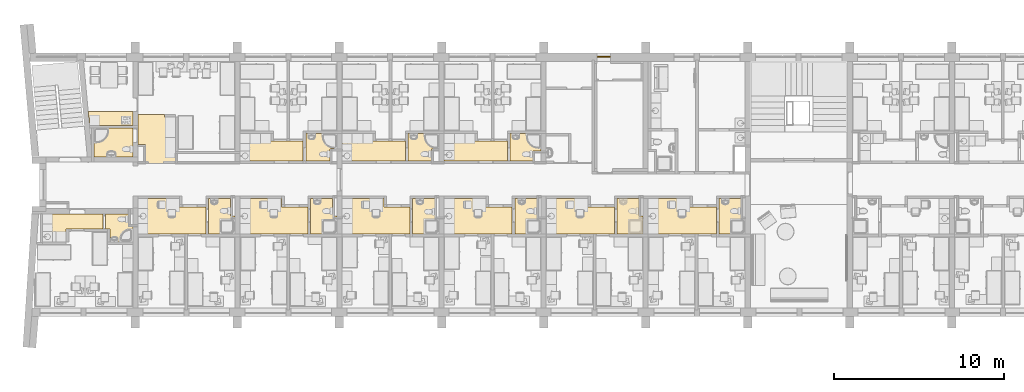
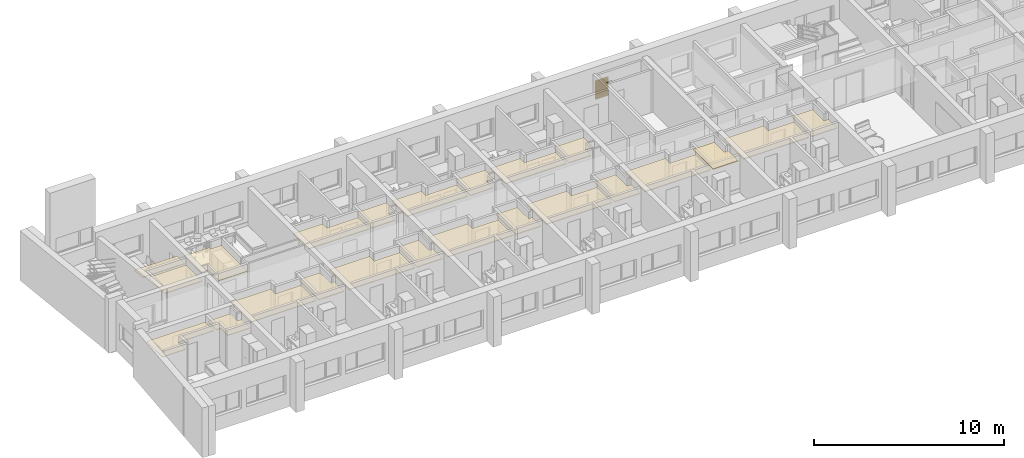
# One storey, part 27 of 165: 25 coverings.
"""IFC2X3 building model written with IfcOpenShell, lengths in millimetres."""

import ifcopenshell
import ifcopenshell.guid

model = None  # the IFC model being written
_history = None  # IfcOwnerHistory: only IFC2X3 demands one
_inside = {}  # id of a spatial element -> (the spatial element, [elements in it])
_under = {}  # id of a project, library or spatial element -> (it, [spatial elements below it])
_declared = {}  # id of a project -> (the project, [libraries it declares])
_typed = {}  # id of a type object -> (the type object, [elements of that type])
_made_of = {}  # id of a material, layer set ... -> (it, [elements and type objects made of it])


def new_model(schema):
    """Start an empty IFC model of exactly this schema.

    Asked for "IFC4X3", IfcOpenShell would pick the latest addendum, in which some entities
    have other attributes; the version numbers below select the first issue.
    IFC2X3 requires an IfcOwnerHistory on every rooted entity: one is made here for all.
    """
    global model, _history
    if schema == "IFC4X3":
        model = ifcopenshell.file(schema_version=(4, 3, 0, 0))
    else:
        model = ifcopenshell.file(schema=schema)
    _inside.clear()
    _under.clear()
    _declared.clear()
    _typed.clear()
    _made_of.clear()
    _history = None
    if model.schema == "IFC2X3":
        org = make("IfcOrganization", Name="unknown")
        user = make(
            "IfcPersonAndOrganization",
            ThePerson=make("IfcPerson", FamilyName="unknown"),
            TheOrganization=org,
        )
        app = make(
            "IfcApplication",
            ApplicationDeveloper=org,
            Version="unknown",
            ApplicationFullName="unknown",
            ApplicationIdentifier="unknown",
        )
        _history = make(
            "IfcOwnerHistory",
            OwningUser=user,
            OwningApplication=app,
            ChangeAction="ADDED",
            CreationDate=0,
        )
    return model


def make(cls, **values):
    """One entity of the class cls with the attributes given. An attribute that is None is left unset."""
    return model.create_entity(
        cls, **{name: value for name, value in values.items() if value is not None}
    )


def entity(cls, *values):
    """Any entity or typed value of the class cls, its attributes in the order of the schema. None: left unset."""
    e = model.create_entity(cls)
    for i, value in enumerate(values):
        if value is not None:
            e[i] = value
    return e


def rooted(cls, **values):
    """An entity with a GlobalId (a new one), such as an element, a storey or a relation."""
    return make(cls, GlobalId=ifcopenshell.guid.new(), OwnerHistory=_history, **values)


def si_unit(unit_type, name, prefix=None):
    """IfcSIUnit, for example si_unit("LENGTHUNIT", "METRE", prefix="MILLI")."""
    return make("IfcSIUnit", UnitType=unit_type, Prefix=prefix, Name=name)


def converted_unit(unit_type, name, factor, base, dimensions=None, offset=None):
    """IfcConversionBasedUnit, such as the inch: factor (a typed value) times the base unit."""
    return make(
        "IfcConversionBasedUnit"
        if offset is None
        else "IfcConversionBasedUnitWithOffset",
        ConversionOffset=offset,
        Dimensions=None
        if dimensions is None
        else entity("IfcDimensionalExponents", *dimensions),
        UnitType=unit_type,
        Name=name,
        ConversionFactor=make(
            "IfcMeasureWithUnit", ValueComponent=factor, UnitComponent=base
        ),
    )


def money_unit(currency):
    """IfcMonetaryUnit."""
    return make("IfcMonetaryUnit", Currency=currency)


def assignment(units):
    """IfcUnitAssignment: the units of a project."""
    return None if units is None else make("IfcUnitAssignment", Units=units)


def point(xyz):
    """IfcCartesianPoint."""
    return None if xyz is None else make("IfcCartesianPoint", Coordinates=xyz)


def direction(xyz):
    """IfcDirection."""
    return None if xyz is None else make("IfcDirection", DirectionRatios=xyz)


def frame(location, z_axis=None, x_axis=None):
    """IfcAxis2Placement3D, a coordinate frame: its origin and axes. An axis left out is left unset."""
    return make(
        "IfcAxis2Placement3D",
        Location=point(location),
        Axis=direction(z_axis),
        RefDirection=direction(x_axis),
    )


def origin_with_axes():
    """The frame at (0, 0, 0) with the z axis (0, 0, 1) and the x axis (1, 0, 0) written out."""
    return frame((0.0, 0.0, 0.0), z_axis=(0.0, 0.0, 1.0), x_axis=(1.0, 0.0, 0.0))


def place(relative_to, where):
    """IfcLocalPlacement: puts the frame where relative to a parent placement (None: the world)."""
    return make(
        "IfcLocalPlacement", PlacementRelTo=relative_to, RelativePlacement=where
    )


def context(
    kind, dimensions, precision=None, world=None, true_north=None, identifier=None
):
    """IfcGeometricRepresentationContext, for example the 3D "Model" context."""
    return make(
        "IfcGeometricRepresentationContext",
        ContextIdentifier=identifier,
        ContextType=kind,
        CoordinateSpaceDimension=dimensions,
        Precision=precision,
        WorldCoordinateSystem=world,
        TrueNorth=true_north,
    )


def subcontext(parent, identifier, kind, view, scale=None):
    """IfcGeometricRepresentationSubContext, for example "Body" below "Model"."""
    return make(
        "IfcGeometricRepresentationSubContext",
        ContextIdentifier=identifier,
        ContextType=kind,
        ParentContext=parent,
        TargetScale=scale,
        TargetView=view,
    )


def project(units=None, contexts=None):
    """IfcProject with its units and contexts."""
    return rooted(
        "IfcProject",
        Name="project",
        RepresentationContexts=contexts,
        UnitsInContext=assignment(units),
    )


def spatial(cls, under=None, at=None, **own):
    """A site, building, storey or space (cls), placed at a placement, below another one or the project."""
    s = rooted(cls, ObjectPlacement=at, **own)
    if under is not None:
        _under.setdefault(under.id(), (under, []))[1].append(s)
    return s


def faces_of(points, faces, orient=None, outer=None):
    """IfcFace entities. A face is a list of loops; a loop is a list of indices into points, from 0.

    orient and outer hold one flag for each loop. By default every Orientation is true, the
    first loop of a face is its IfcFaceOuterBound and the others are IfcFaceBound.
    """
    made = []
    for i, loops in enumerate(faces):
        bounds = []
        for j, loop in enumerate(loops):
            is_outer = j == 0 if outer is None else outer[i][j]
            bounds.append(
                make(
                    "IfcFaceOuterBound" if is_outer else "IfcFaceBound",
                    Bound=make("IfcPolyLoop", Polygon=[points[k] for k in loop]),
                    Orientation=True if orient is None else orient[i][j],
                )
            )
        made.append(make("IfcFace", Bounds=bounds))
    return made


def faceted_brep(points, faces, orient=None, outer=None, voids=None):
    """IfcFacetedBrep: a solid bounded by flat faces; with voids (closed shells), ...WithVoids."""
    shared = [point(p) for p in points]
    hull = make("IfcClosedShell", CfsFaces=faces_of(shared, faces, orient, outer))
    if voids is None:
        return make("IfcFacetedBrep", Outer=hull)
    return make(
        "IfcFacetedBrepWithVoids",
        Outer=hull,
        Voids=[
            make(cls, CfsFaces=faces_of(shared, fs, o, b)) for cls, fs, o, b in voids
        ],
    )


def shape(context_of_items, identifier, shape_type, items):
    """IfcShapeRepresentation: the items that make up one representation, for example the "Body"."""
    return make(
        "IfcShapeRepresentation",
        ContextOfItems=context_of_items,
        RepresentationIdentifier=identifier,
        RepresentationType=shape_type,
        Items=items,
    )


def source(mapping_origin, context_of_items, identifier, shape_type, items):
    """IfcRepresentationMap: a shape defined once, which mapped items show again and again."""
    return make(
        "IfcRepresentationMap",
        MappingOrigin=mapping_origin,
        MappedRepresentation=shape(context_of_items, identifier, shape_type, items),
    )


def transform(
    local_origin,
    x_axis=None,
    y_axis=None,
    z_axis=None,
    scale=None,
    scale2=None,
    scale3=None,
    uniform=True,
):
    """IfcCartesianTransformationOperator3D, or its non-uniform kind. x_axis, y_axis, z_axis: its Axis1, 2, 3."""
    if uniform:
        return make(
            "IfcCartesianTransformationOperator3D",
            Axis1=direction(x_axis),
            Axis2=direction(y_axis),
            LocalOrigin=point(local_origin),
            Scale=scale,
            Axis3=direction(z_axis),
        )
    return make(
        "IfcCartesianTransformationOperator3DnonUniform",
        Axis1=direction(x_axis),
        Axis2=direction(y_axis),
        LocalOrigin=point(local_origin),
        Scale=scale,
        Axis3=direction(z_axis),
        Scale2=scale2,
        Scale3=scale3,
    )


def mapped(mapping_source, mapping_target):
    """IfcMappedItem: shows the shape of a source again, moved by a transform."""
    return make(
        "IfcMappedItem", MappingSource=mapping_source, MappingTarget=mapping_target
    )


def material(Name=None, Category=None):
    """IfcMaterial."""
    return make("IfcMaterial", Name=Name, Category=Category)


def material_list(materials):
    """IfcMaterialList."""
    return make("IfcMaterialList", Materials=materials)


def made_of(thing, what):
    """Note that an element or type object is made of a material, layer set ...; save() writes the relation."""
    if what is not None:
        _made_of.setdefault(what.id(), (what, []))[1].append(thing)
    return thing


def type_object(cls, material=None, **own):
    """A type object (cls), such as IfcWallType, which elements share."""
    return made_of(rooted(cls, **own), material)


def element(
    cls,
    number,
    at=None,
    inside=None,
    cuts=None,
    type_object=None,
    material=None,
    context=None,
    identifier="Body",
    shape_type=None,
    held_by="IfcProductDefinitionShape",
    body=None,
    shapes=None,
    **own,
):
    """One element of the class cls, such as IfcWall. Its Tag is "e" and its number.

    at: its placement. inside: the storey or other place that contains it. cuts: it is an
    opening in that element (IfcRelVoidsElement). A single representation is given by context,
    identifier, shape_type and body (its items); several are given by shapes. held_by: the class
    of the entity that holds the representations. save() writes the other relations.
    """
    e = rooted(cls, Tag="e%d" % number, ObjectPlacement=at, **own)
    if body is not None:
        shapes = [shape(context, identifier, shape_type, body)]
    if shapes is not None:
        e.Representation = make(held_by, Representations=shapes)
    if inside is not None:
        _inside.setdefault(inside.id(), (inside, []))[1].append(e)
    if cuts is not None:
        rooted(
            "IfcRelVoidsElement", RelatingBuildingElement=cuts, RelatedOpeningElement=e
        )
    if type_object is not None:
        _typed.setdefault(type_object.id(), (type_object, []))[1].append(e)
    return made_of(e, material)


def aggregate(whole, parts):
    """IfcRelAggregates: a whole, such as a stair, and the parts it consists of."""
    return rooted("IfcRelAggregates", RelatingObject=whole, RelatedObjects=parts)


def save(model, path):
    """Write the relations noted so far, then the file.

    IfcRelAggregates (storeys below a building ...), IfcRelContainedInSpatialStructure (elements
    in a storey), IfcRelDefinesByType, IfcRelAssociatesMaterial and IfcRelDeclares: one each for
    every whole, place, type object, material and project.
    """
    for whole, parts in _under.values():
        aggregate(whole, parts)
    for where, things in _inside.values():
        rooted(
            "IfcRelContainedInSpatialStructure",
            RelatedElements=things,
            RelatingStructure=where,
        )
    for kind, things in _typed.values():
        rooted("IfcRelDefinesByType", RelatedObjects=things, RelatingType=kind)
    for what, things in _made_of.values():
        rooted("IfcRelAssociatesMaterial", RelatedObjects=things, RelatingMaterial=what)
    for by, libraries in _declared.values():
        rooted("IfcRelDeclares", RelatingContext=by, RelatedDefinitions=libraries)
    model.write(path)


model = new_model("IFC2X3")

# Units and contexts
model_context = context("Model", 3, precision=1e-05, world=origin_with_axes(), true_north=direction((0.0, 1.0)))
body_context = subcontext(model_context, "Body", "Model", "MODEL_VIEW")
ifc_project = project(units=[si_unit("LENGTHUNIT", "METRE", prefix="MILLI"), si_unit("AREAUNIT", "SQUARE_METRE"), si_unit("VOLUMEUNIT", "CUBIC_METRE"), converted_unit("PLANEANGLEUNIT", "DEGREE", entity("IfcPlaneAngleMeasure", 0.0174532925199), si_unit("PLANEANGLEUNIT", "RADIAN"), dimensions=[0, 0, 0, 0, 0, 0, 0]), si_unit("SOLIDANGLEUNIT", "STERADIAN"), money_unit("USD"), converted_unit("TIMEUNIT", "Year", entity("IfcTimeMeasure", 31556926.0), si_unit("TIMEUNIT", "SECOND"), dimensions=[0, 0, 0, 0, 0, 0, 0]), si_unit("MASSUNIT", "GRAM"), si_unit("THERMODYNAMICTEMPERATUREUNIT", "DEGREE_CELSIUS"), si_unit("LUMINOUSINTENSITYUNIT", "LUMEN")], contexts=[model_context])

# Site, building, storey
site_placement = place(None, origin_with_axes())
site = spatial("IfcSite", under=ifc_project, at=site_placement, Name="Site", CompositionType="ELEMENT")
building_placement = place(site_placement, origin_with_axes())
building = spatial("IfcBuilding", under=site, at=building_placement, Name="Building", CompositionType="ELEMENT")
storey_placement = place(building_placement, frame((0.0, 0.0, 6300.0), z_axis=(0.0, 0.0, 1.0), x_axis=(1.0, 0.0, 0.0)))
storey = spatial("IfcBuildingStorey", under=building, at=storey_placement, Name="4KORRUS", CompositionType="ELEMENT", Elevation=6300.0)

# Coverings
ifc_material_1 = material(Name="Alumiiniumprofiil")
covering_type_1 = type_object("IfcCoveringType", Name="Alumiiniumprofiil 50", PredefinedType="NOTDEFINED")
covering_1_placement = place(storey_placement, frame((-38121.5850987, -10986.6041088, 2350.0), z_axis=(0.0, 0.0, 1.0), x_axis=(1.0, 0.0, 0.0)))
element("IfcCovering", 1, at=covering_1_placement, inside=storey, type_object=covering_type_1, material=ifc_material_1, Name="RL2", ObjectType="alumiiniumprofiil", PredefinedType="CEILING", context=body_context, shape_type="Brep", body=[
    faceted_brep([(0.0, 0.0, -50.0), (1431.577, 0.0, -50.0), (1431.577, 0.0, 0.0), (0.0, 0.0, 0.0), (0.0, 1620.226, -50.0), (1831.288, 1619.226, -50.0), (1831.288, 699.226, -50.0), (1431.577, 699.226, -50.0), (1431.577, 699.226, 0.0), (1831.288, 699.226, 0.0), (1831.288, 1619.226, 0.0), (0.0, 1620.226, 0.0)], [[[0, 1, 2, 3]], [[0, 4, 5, 6, 7, 1]], [[1, 7, 8, 2]], [[3, 2, 8, 9, 10, 11]], [[4, 0, 3, 11]], [[5, 4, 11, 10]], [[6, 5, 10, 9]], [[7, 6, 9, 8]]]),
])
covering_2_placement = place(storey_placement, frame((-26121.5850987, -10987.6041088, 2350.0), z_axis=(0.0, 0.0, 1.0), x_axis=(1.0, 0.0, 0.0)))
element("IfcCovering", 2, at=covering_2_placement, inside=storey, type_object=covering_type_1, material=ifc_material_1, Name="RL2", ObjectType="alumiiniumprofiil", PredefinedType="CEILING", context=body_context, shape_type="Brep", body=[
    faceted_brep([(0.0, 0.0, -50.0), (1343.865, 0.0, -50.0), (1343.865, 0.0, 0.0), (0.0, 0.0, 0.0), (0.0, 1620.226, -50.0), (1831.288, 1619.226, -50.0), (1831.288, 581.191, -50.0), (1343.865, 581.191, -50.0), (1343.865, 581.191, 0.0), (1831.288, 581.191, 0.0), (1831.288, 1619.226, 0.0), (0.0, 1620.226, 0.0)], [[[0, 1, 2, 3]], [[0, 4, 5, 6, 7, 1]], [[1, 7, 8, 2]], [[3, 2, 8, 9, 10, 11]], [[4, 0, 3, 11]], [[5, 4, 11, 10]], [[6, 5, 10, 9]], [[7, 6, 9, 8]]]),
])
covering_3_placement = place(storey_placement, frame((-32115.2932676, -10987.6041088, 2350.0), z_axis=(0.0, 0.0, 1.0), x_axis=(1.0, 0.0, 0.0)))
element("IfcCovering", 3, at=covering_3_placement, inside=storey, type_object=covering_type_1, material=ifc_material_1, Name="RL2", ObjectType="alumiiniumprofiil", PredefinedType="CEILING", context=body_context, shape_type="Brep", body=[
    faceted_brep([(0.0, 0.0, -50.0), (1374.997, 0.0, -50.0), (1374.997, 0.0, 0.0), (0.0, 0.0, 0.0), (0.0, 1620.222, -50.0), (1824.997, 1619.226, -50.0), (1824.997, 699.226, -50.0), (1374.997, 699.226, -50.0), (1374.997, 699.226, 0.0), (1824.997, 699.226, 0.0), (1824.997, 1619.226, 0.0), (0.0, 1620.222, 0.0)], [[[0, 1, 2, 3]], [[0, 4, 5, 6, 7, 1]], [[1, 7, 8, 2]], [[3, 2, 8, 9, 10, 11]], [[4, 0, 3, 11]], [[5, 4, 11, 10]], [[6, 5, 10, 9]], [[7, 6, 9, 8]]]),
])
covering_4_placement = place(storey_placement, frame((-37834.201689, -15289.2398994, 2350.0), z_axis=(0.0, 0.0, 1.0), x_axis=(1.0, 0.0, 0.0)))
element("IfcCovering", 4, at=covering_4_placement, inside=storey, type_object=covering_type_1, material=ifc_material_1, Name="RL2", ObjectType="alumiiniumprofiil", PredefinedType="CEILING", context=body_context, shape_type="Brep", body=[
    faceted_brep([(0.0, 0.0, -50.0), (1543.905, 0.0, -50.0), (1543.905, 0.0, 0.0), (0.0, 0.0, 0.0), (0.0, 2099.869, -50.0), (1295.215, 2099.869, -50.0), (1300.193, 1058.768, -50.0), (1543.905, 1058.768, -50.0), (1543.905, 1058.768, 0.0), (1300.193, 1058.768, 0.0), (1295.215, 2099.869, 0.0), (0.0, 2099.869, 0.0)], [[[0, 1, 2, 3]], [[0, 4, 5, 6, 7, 1]], [[1, 7, 8, 2]], [[3, 2, 8, 9, 10, 11]], [[4, 0, 3, 11]], [[5, 4, 11, 10]], [[6, 5, 10, 9]], [[7, 6, 9, 8]]]),
])
covering_5_placement = place(storey_placement, frame((-48290.2967033, -10739.6041088, 2350.0), z_axis=(0.0, 0.0, 1.0), x_axis=(1.0, 0.0, 0.0)))
element("IfcCovering", 5, at=covering_5_placement, inside=storey, type_object=covering_type_1, material=ifc_material_1, Name="RL2", ObjectType="alumiiniumprofiil", PredefinedType="CEILING", context=body_context, shape_type="Brep", body=[
    faceted_brep([(0.0, 0.0, -50.0), (0.0, 1694.331, -50.0), (0.0, 1694.331, 0.0), (0.0, 0.0, 0.0), (-2288.288, 0.0, -50.0), (-2288.288, 1694.331, -50.0), (-2288.288, 1694.331, 0.0), (-2288.288, 0.0, 0.0)], [[[0, 1, 2, 3]], [[0, 4, 5, 1]], [[1, 5, 6, 2]], [[3, 2, 6, 7]], [[4, 0, 3, 7]], [[5, 4, 7, 6]]]),
])
covering_6_placement = place(storey_placement, frame((-19838.0195593, -15289.2398994, 2350.0), z_axis=(0.0, 0.0, 1.0), x_axis=(1.0, 0.0, 0.0)))
element("IfcCovering", 6, at=covering_6_placement, inside=storey, type_object=covering_type_1, material=ifc_material_1, Name="RL2", ObjectType="alumiiniumprofiil", PredefinedType="CEILING", context=body_context, shape_type="Brep", body=[
    faceted_brep([(0.0, 0.0, -50.0), (1547.723, 0.0, -50.0), (1547.723, 0.0, 0.0), (0.0, 0.0, 0.0), (3.818, 2099.869, -50.0), (1299.033, 2099.869, -50.0), (1304.011, 1058.768, -50.0), (1547.723, 1058.768, -50.0), (1547.723, 1058.768, 0.0), (1304.011, 1058.768, 0.0), (1299.033, 2099.869, 0.0), (3.818, 2099.869, 0.0)], [[[0, 1, 2, 3]], [[0, 4, 5, 6, 7, 1]], [[1, 7, 8, 2]], [[3, 2, 8, 9, 10, 11]], [[4, 0, 3, 11]], [[5, 4, 11, 10]], [[6, 5, 10, 9]], [[7, 6, 9, 8]]]),
])
covering_7_placement = place(storey_placement, frame((-31834.201689, -15289.2398994, 2350.0), z_axis=(0.0, 0.0, 1.0), x_axis=(1.0, 0.0, 0.0)))
element("IfcCovering", 7, at=covering_7_placement, inside=storey, type_object=covering_type_1, material=ifc_material_1, Name="RL2", ObjectType="alumiiniumprofiil", PredefinedType="CEILING", context=body_context, shape_type="Brep", body=[
    faceted_brep([(0.0, 0.0, -50.0), (1543.905, 0.0, -50.0), (1543.905, 0.0, 0.0), (0.0, 0.0, 0.0), (0.0, 2105.058, -50.0), (1295.215, 2105.058, -50.0), (1300.193, 908.768, -50.0), (1543.905, 908.768, -50.0), (1543.905, 908.768, 0.0), (1300.193, 908.768, 0.0), (1295.215, 2105.058, 0.0), (0.0, 2105.058, 0.0)], [[[0, 1, 2, 3]], [[0, 4, 5, 6, 7, 1]], [[1, 7, 8, 2]], [[3, 2, 8, 9, 10, 11]], [[4, 0, 3, 11]], [[5, 4, 11, 10]], [[6, 5, 10, 9]], [[7, 6, 9, 8]]]),
])
covering_8_placement = place(storey_placement, frame((-43834.201689, -15289.2398994, 2350.0), z_axis=(0.0, 0.0, 1.0), x_axis=(1.0, 0.0, 0.0)))
element("IfcCovering", 8, at=covering_8_placement, inside=storey, type_object=covering_type_1, material=ifc_material_1, Name="RL2", ObjectType="alumiiniumprofiil", PredefinedType="CEILING", context=body_context, shape_type="Brep", body=[
    faceted_brep([(0.0, 0.0, -50.0), (1543.905, 0.0, -50.0), (1543.905, 0.0, 0.0), (0.0, 0.0, 0.0), (0.0, 2099.869, -50.0), (1295.215, 2099.869, -50.0), (1300.193, 1058.768, -50.0), (1543.905, 1058.768, -50.0), (1543.905, 1058.768, 0.0), (1300.193, 1058.768, 0.0), (1295.215, 2099.869, 0.0), (0.0, 2099.869, 0.0)], [[[0, 1, 2, 3]], [[0, 4, 5, 6, 7, 1]], [[1, 7, 8, 2]], [[3, 2, 8, 9, 10, 11]], [[4, 0, 3, 11]], [[5, 4, 11, 10]], [[6, 5, 10, 9]], [[7, 6, 9, 8]]]),
])
covering_9_placement = place(storey_placement, frame((-12546.2967033, -13189.3705726, 2350.0), z_axis=(0.0, 0.0, 1.0), x_axis=(1.0, 0.0, 0.0)))
element("IfcCovering", 9, at=covering_9_placement, inside=storey, type_object=covering_type_1, material=ifc_material_1, Name="RL2", ObjectType="alumiiniumprofiil", PredefinedType="CEILING", context=body_context, shape_type="Brep", body=[
    faceted_brep([(0.0, 0.0, -50.0), (-1295.215, 0.0, -50.0), (-1295.215, 0.0, 0.0), (0.0, 0.0, 0.0), (0.0, -1191.101, -50.0), (256.0, -1191.101, -50.0), (254.978, -2099.869, -50.0), (-1295.215, -2099.869, -50.0), (-1295.215, -2099.869, 0.0), (254.978, -2099.869, 0.0), (256.0, -1191.101, 0.0), (0.0, -1191.101, 0.0)], [[[0, 1, 2, 3]], [[0, 4, 5, 6, 7, 1]], [[1, 7, 8, 2]], [[3, 2, 8, 9, 10, 11]], [[4, 0, 3, 11]], [[5, 4, 11, 10]], [[6, 5, 10, 9]], [[7, 6, 9, 8]]]),
])
covering_10_placement = place(storey_placement, frame((-19838.0195593, -15289.2398994, 2350.0), z_axis=(0.0, 0.0, 1.0), x_axis=(1.0, 0.0, 0.0)))
element("IfcCovering", 10, at=covering_10_placement, inside=storey, type_object=covering_type_1, material=ifc_material_1, Name="RL2", ObjectType="alumiiniumprofiil", PredefinedType="CEILING", context=body_context, shape_type="Brep", body=[
    faceted_brep([(0.0, 0.0, -50.0), (1547.723, 0.0, -50.0), (1547.723, 0.0, 0.0), (0.0, 0.0, 0.0), (3.818, 2099.869, -50.0), (1299.033, 2099.869, -50.0), (1304.011, 1058.768, -50.0), (1547.723, 1058.768, -50.0), (1547.723, 1058.768, 0.0), (1304.011, 1058.768, 0.0), (1299.033, 2099.869, 0.0), (3.818, 2099.869, 0.0)], [[[0, 1, 2, 3]], [[0, 4, 5, 6, 7, 1]], [[1, 7, 8, 2]], [[3, 2, 8, 9, 10, 11]], [[4, 0, 3, 11]], [[5, 4, 11, 10]], [[6, 5, 10, 9]], [[7, 6, 9, 8]]]),
])
covering_11_placement = place(storey_placement, frame((-49890.4499069, -14989.5106464, 2350.0), z_axis=(0.0, 0.0, 1.0), x_axis=(1.0, 0.0, 0.0)))
element("IfcCovering", 11, at=covering_11_placement, inside=storey, type_object=covering_type_1, material=ifc_material_1, Name="RL2", ObjectType="alumiiniumprofiil", PredefinedType="CEILING", context=body_context, shape_type="Brep", body=[
    faceted_brep([(0.0, 0.0, -50.0), (266.685, 0.0, -50.0), (266.685, 0.0, 0.0), (0.0, 0.0, 0.0), (0.0, 902.173, -50.0), (1366.153, 902.173, -50.0), (1366.153, 150.484, -50.0), (1626.153, 150.484, -50.0), (1626.153, -747.668, -50.0), (266.685, -749.516, -50.0), (266.685, -749.516, 0.0), (1626.153, -747.668, 0.0), (1626.153, 150.484, 0.0), (1366.153, 150.484, 0.0), (1366.153, 902.173, 0.0), (0.0, 902.173, 0.0)], [[[0, 1, 2, 3]], [[0, 4, 5, 6, 7, 8, 9, 1]], [[1, 9, 10, 2]], [[3, 2, 10, 11, 12, 13, 14, 15]], [[4, 0, 3, 15]], [[5, 4, 15, 14]], [[6, 5, 14, 13]], [[7, 6, 13, 12]], [[8, 7, 12, 11]], [[9, 8, 11, 10]]]),
])
covering_12_placement = place(storey_placement, frame((-25835.2232029, -15289.2398994, 2350.0), z_axis=(0.0, 0.0, 1.0), x_axis=(1.0, 0.0, 0.0)))
element("IfcCovering", 12, at=covering_12_placement, inside=storey, type_object=covering_type_1, material=ifc_material_1, Name="RL2", ObjectType="alumiiniumprofiil", PredefinedType="CEILING", context=body_context, shape_type="Brep", body=[
    faceted_brep([(0.0, 0.0, -50.0), (1544.926, 0.0, -50.0), (1544.926, 0.0, 0.0), (0.0, 0.0, 0.0), (0.0, 2099.869, -50.0), (1295.215, 2099.869, -50.0), (1300.193, 908.768, -50.0), (1543.905, 908.768, -50.0), (1543.905, 908.768, 0.0), (1300.193, 908.768, 0.0), (1295.215, 2099.869, 0.0), (0.0, 2099.869, 0.0)], [[[0, 1, 2, 3]], [[0, 4, 5, 6, 7, 1]], [[1, 7, 8, 2]], [[3, 2, 8, 9, 10, 11]], [[4, 0, 3, 11]], [[5, 4, 11, 10]], [[6, 5, 10, 9]], [[7, 6, 9, 8]]]),
])
ifc_material_2 = material(Name="UmbKipsplaat")
covering_type_2 = type_object("IfcCoveringType", Name="UmbKipsplaat 50", PredefinedType="NOTDEFINED")
covering_13_placement = place(storey_placement, frame((-35984.008308, -10986.6040827, 2350.0), z_axis=(0.0, 0.0, 1.0), x_axis=(1.0, 0.0, 0.0)))
element("IfcCovering", 13, at=covering_13_placement, inside=storey, type_object=covering_type_2, material=ifc_material_2, Name="RL1", ObjectType="kipsplaat", PredefinedType="CEILING", context=body_context, shape_type="Brep", body=[
    faceted_brep([(0.0, 0.0, -50.0), (3718.712, -1.0, -50.0), (3718.712, -1.0, 0.0), (0.0, 0.0, 0.0), (0.0, 1620.226, -50.0), (1818.265, 1620.226, -50.0), (1818.265, 1179.71, -50.0), (3718.712, 1179.71, -50.0), (3718.712, 1179.71, 0.0), (1818.265, 1179.71, 0.0), (1818.265, 1620.226, 0.0), (0.0, 1620.226, 0.0)], [[[0, 1, 2, 3]], [[0, 4, 5, 6, 7, 1]], [[1, 7, 8, 2]], [[3, 2, 8, 9, 10, 11]], [[4, 0, 3, 11]], [[5, 4, 11, 10]], [[6, 5, 10, 9]], [[7, 6, 9, 8]]]),
])
covering_14_placement = place(storey_placement, frame((-39533.8623886, -13189.2398719, 2350.0), z_axis=(0.0, 0.0, 1.0), x_axis=(1.0, 0.0, 0.0)))
element("IfcCovering", 14, at=covering_14_placement, inside=storey, type_object=covering_type_2, material=ifc_material_2, Name="RL1", ObjectType="kipsplaat", PredefinedType="CEILING", context=body_context, shape_type="Brep", body=[
    faceted_brep([(0.0, 0.0, -50.0), (-2450.146, -0.131, -50.0), (-2450.146, -0.131, 0.0), (0.0, 0.0, 0.0), (0.0, -500.213, -50.0), (1549.661, -500.213, -50.0), (1549.661, -2100.0, -50.0), (-2450.146, -2100.0, -50.0), (-2450.146, -2100.0, 0.0), (1549.661, -2100.0, 0.0), (1549.661, -500.213, 0.0), (0.0, -500.213, 0.0)], [[[0, 1, 2, 3]], [[0, 4, 5, 6, 7, 1]], [[1, 7, 8, 2]], [[3, 2, 8, 9, 10, 11]], [[4, 0, 3, 11]], [[5, 4, 11, 10]], [[6, 5, 10, 9]], [[7, 6, 9, 8]]]),
])
covering_15_placement = place(storey_placement, frame((-48290.2967033, -8889.27319796, 2350.0), z_axis=(0.0, 0.0, 1.0), x_axis=(1.0, 0.0, 0.0)))
element("IfcCovering", 15, at=covering_15_placement, inside=storey, type_object=covering_type_2, material=ifc_material_2, Name="RL1", ObjectType="kipsplaat", PredefinedType="CEILING", context=body_context, shape_type="Brep", body=[
    faceted_brep([(0.0, 0.0, -50.0), (0.0, 799.402, -50.0), (0.0, 799.402, 0.0), (0.0, 0.0, 0.0), (-2546.245, 0.0, -50.0), (-2620.403, 811.12, -50.0), (-2620.403, 811.12, 0.0), (-2546.245, 0.0, 0.0)], [[[0, 1, 2, 3]], [[0, 4, 5, 1]], [[1, 5, 6, 2]], [[3, 2, 6, 7]], [[4, 0, 3, 7]], [[5, 4, 7, 6]]]),
])
covering_16_placement = place(storey_placement, frame((-21533.8623886, -13189.1091874, 2350.0), z_axis=(0.0, 0.0, 1.0), x_axis=(1.0, 0.0, 0.0)))
element("IfcCovering", 16, at=covering_16_placement, inside=storey, type_object=covering_type_2, material=ifc_material_2, Name="RL1", ObjectType="kipsplaat", PredefinedType="CEILING", context=body_context, shape_type="Brep", body=[
    faceted_brep([(0.0, 0.0, -50.0), (-2450.146, -0.131, -50.0), (-2450.146, -0.131, 0.0), (0.0, 0.0, 0.0), (0.0, -500.213, -50.0), (1549.661, -500.213, -50.0), (1549.661, -2100.131, -50.0), (-2450.146, -2100.131, -50.0), (-2450.146, -2100.131, 0.0), (1549.661, -2100.131, 0.0), (1549.661, -500.213, 0.0), (0.0, -500.213, 0.0)], [[[0, 1, 2, 3]], [[0, 4, 5, 6, 7, 1]], [[1, 7, 8, 2]], [[3, 2, 8, 9, 10, 11]], [[4, 0, 3, 11]], [[5, 4, 11, 10]], [[6, 5, 10, 9]], [[7, 6, 9, 8]]]),
])
covering_17_placement = place(storey_placement, frame((-29984.008308, -9367.37852492, 2350.0), z_axis=(0.0, 0.0, 1.0), x_axis=(1.0, 0.0, 0.0)))
element("IfcCovering", 17, at=covering_17_placement, inside=storey, type_object=covering_type_2, material=ifc_material_2, Name="RL1", ObjectType="kipsplaat", PredefinedType="CEILING", context=body_context, shape_type="Brep", body=[
    faceted_brep([(0.0, 0.0, -50.0), (0.0, -1619.226, -50.0), (0.0, -1619.226, 0.0), (0.0, 0.0, 0.0), (1818.265, 0.0, -50.0), (1818.265, -448.516, -50.0), (3718.712, -448.516, -50.0), (3718.712, -1619.226, -50.0), (3718.712, -1619.226, 0.0), (3718.712, -448.516, 0.0), (1818.265, -448.516, 0.0), (1818.265, 0.0, 0.0)], [[[0, 1, 2, 3]], [[0, 4, 5, 6, 7, 1]], [[1, 7, 8, 2]], [[3, 2, 8, 9, 10, 11]], [[4, 0, 3, 11]], [[5, 4, 11, 10]], [[6, 5, 10, 9]], [[7, 6, 9, 8]]]),
])
for number, where, z_axis, x_axis, name in (
    (18, (-33533.8623886, -13189.2398719, 2350.0), (0.0, 0.0, 1.0), (1.0, 0.0, 0.0), "RL1"),
    (19, (-45533.8623886, -13189.2398697, 2350.0), (0.0, 0.0, 1.0), (1.0, 0.0, 0.0), "RL1"),
):
    element("IfcCovering", number, at=place(storey_placement, frame(where, z_axis=z_axis, x_axis=x_axis)), inside=storey, type_object=covering_type_2, material=ifc_material_2, Name=name, ObjectType="kipsplaat", PredefinedType="CEILING", context=body_context, shape_type="Brep", body=[
        faceted_brep([(0.0, 0.0, -50.0), (-2450.146, -0.131, -50.0), (-2450.146, -0.131, 0.0), (0.0, 0.0, 0.0), (0.0, -500.213, -50.0), (1549.661, -500.213, -50.0), (1549.661, -2100.0, -50.0), (-2450.146, -2100.0, -50.0), (-2450.146, -2100.0, 0.0), (1549.661, -2100.0, 0.0), (1549.661, -500.213, 0.0), (0.0, -500.213, 0.0)], [[[0, 1, 2, 3]], [[0, 4, 5, 6, 7, 1]], [[1, 7, 8, 2]], [[3, 2, 8, 9, 10, 11]], [[4, 0, 3, 11]], [[5, 4, 11, 10]], [[6, 5, 10, 9]], [[7, 6, 9, 8]]]),
    ])
covering_18_placement = place(storey_placement, frame((-17990.2967033, -15289.2398994, 2350.0), z_axis=(0.0, 0.0, 1.0), x_axis=(1.0, 0.0, 0.0)))
element("IfcCovering", 20, at=covering_18_placement, inside=storey, type_object=covering_type_2, material=ifc_material_2, Name="RL1", ObjectType="kipsplaat", PredefinedType="CEILING", context=body_context, shape_type="Brep", body=[
    faceted_brep([(0.0, 0.0, -50.0), (3999.807, 0.0, -50.0), (3999.807, 0.0, 0.0), (0.0, 0.0, 0.0), (0.0, 2100.0, -50.0), (2450.146, 2100.131, -50.0), (2450.146, 1599.918, -50.0), (3999.807, 1599.787, -50.0), (3999.807, 1599.787, 0.0), (2450.146, 1599.918, 0.0), (2450.146, 2100.131, 0.0), (0.0, 2100.0, 0.0)], [[[0, 1, 2, 3]], [[0, 4, 5, 6, 7, 1]], [[1, 7, 8, 2]], [[3, 2, 8, 9, 10, 11]], [[4, 0, 3, 11]], [[5, 4, 11, 10]], [[6, 5, 10, 9]], [[7, 6, 9, 8]]]),
])
covering_19_placement = place(storey_placement, frame((-53608.4921105, -14087.3375564, 2350.0), z_axis=(0.0, 0.0, 1.0), x_axis=(1.0, 0.0, 0.0)))
element("IfcCovering", 21, at=covering_19_placement, inside=storey, type_object=covering_type_2, material=ifc_material_2, Name="RL1", ObjectType="kipsplaat", PredefinedType="CEILING", context=body_context, shape_type="Brep", body=[
    faceted_brep([(0.0, 0.0, -50.0), (0.0, -1650.689, -50.0), (0.0, -1650.689, 0.0), (0.0, 0.0, 0.0), (3568.042, 0.0, -50.0), (3568.042, -902.173, -50.0), (1405.086, -902.173, -50.0), (1405.086, -1650.689, -50.0), (1405.086, -1650.689, 0.0), (1405.086, -902.173, 0.0), (3568.042, -902.173, 0.0), (3568.042, 0.0, 0.0)], [[[0, 1, 2, 3]], [[0, 4, 5, 6, 7, 1]], [[1, 7, 8, 2]], [[3, 2, 8, 9, 10, 11]], [[4, 0, 3, 11]], [[5, 4, 11, 10]], [[6, 5, 10, 9]], [[7, 6, 9, 8]]]),
])
covering_20_placement = place(storey_placement, frame((-27534.8839025, -13194.4288088, 2350.0), z_axis=(0.0, 0.0, 1.0), x_axis=(1.0, 0.0, 0.0)))
element("IfcCovering", 22, at=covering_20_placement, inside=storey, type_object=covering_type_2, material=ifc_material_2, Name="RL1", ObjectType="kipsplaat", PredefinedType="CEILING", context=body_context, shape_type="Brep", body=[
    faceted_brep([(0.0, 0.0, -50.0), (-2450.146, -0.131, -50.0), (-2450.146, -0.131, 0.0), (0.0, 0.0, 0.0), (0.0, -500.213, -50.0), (1549.661, -500.213, -50.0), (1549.661, -2094.811, -50.0), (-2450.146, -2094.811, -50.0), (-2450.146, -2094.811, 0.0), (1549.661, -2094.811, 0.0), (1549.661, -500.213, 0.0), (0.0, -500.213, 0.0)], [[[0, 1, 2, 3]], [[0, 4, 5, 6, 7, 1]], [[1, 7, 8, 2]], [[3, 2, 8, 9, 10, 11]], [[4, 0, 3, 11]], [[5, 4, 11, 10]], [[6, 5, 10, 9]], [[7, 6, 9, 8]]]),
])
covering_21_placement = place(storey_placement, frame((-45784.1327748, -11136.6041088, 2350.0), z_axis=(0.0, 0.0, 1.0), x_axis=(1.0, 0.0, 0.0)))
element("IfcCovering", 23, at=covering_21_placement, inside=storey, type_object=covering_type_2, material=ifc_material_2, Name="RL1", ObjectType="kipsplaat", PredefinedType="CEILING", context=body_context, shape_type="Brep", body=[
    faceted_brep([(0.0, 0.0, -50.0), (0.0, 2726.733, -50.0), (0.0, 2726.733, 0.0), (0.0, 0.0, 0.0), (-1743.72, 0.0, -50.0), (-1747.444, 1107.307, -50.0), (-2206.164, 1107.307, -50.0), (-2206.164, 2876.733, -50.0), (-649.85, 2876.733, -50.0), (-649.85, 2726.733, -50.0), (-649.85, 2726.733, 0.0), (-649.85, 2876.733, 0.0), (-2206.164, 2876.733, 0.0), (-2206.164, 1107.307, 0.0), (-1747.444, 1107.307, 0.0), (-1743.72, 0.0, 0.0)], [[[0, 1, 2, 3]], [[0, 4, 5, 6, 7, 8, 9, 1]], [[1, 9, 10, 2]], [[3, 2, 10, 11, 12, 13, 14, 15]], [[4, 0, 3, 15]], [[5, 4, 15, 14]], [[6, 5, 14, 13]], [[7, 6, 13, 12]], [[8, 7, 12, 11]], [[9, 8, 11, 10]]]),
])
covering_22_placement = place(storey_placement, frame((-41990.2967033, -10986.6041088, 2350.0), z_axis=(0.0, 0.0, 1.0), x_axis=(1.0, 0.0, 0.0)))
element("IfcCovering", 24, at=covering_22_placement, inside=storey, type_object=covering_type_2, material=ifc_material_2, Name="RL1", ObjectType="kipsplaat", PredefinedType="CEILING", context=body_context, shape_type="Brep", body=[
    faceted_brep([(0.0, 0.0, -50.0), (3718.712, 0.0, -50.0), (3718.712, 0.0, 0.0), (0.0, 0.0, 0.0), (0.0, 1620.226, -50.0), (1818.265, 1620.226, -50.0), (1818.265, 1179.71, -50.0), (3718.712, 1179.71, -50.0), (3718.712, 1179.71, 0.0), (1818.265, 1179.71, 0.0), (1818.265, 1620.226, 0.0), (0.0, 1620.226, 0.0)], [[[0, 1, 2, 3]], [[0, 4, 5, 6, 7, 1]], [[1, 7, 8, 2]], [[3, 2, 8, 9, 10, 11]], [[4, 0, 3, 11]], [[5, 4, 11, 10]], [[6, 5, 10, 9]], [[7, 6, 9, 8]]]),
])
ifc_material_3 = material(Name="Background")
ifc_material_list = material_list([ifc_material_3])
covering_type_3 = type_object("IfcCoveringType", Name="Window 19", PredefinedType="NOTDEFINED")
shared_shape = source(origin_with_axes(), body_context, "Body", "Brep", [
    faceted_brep([(775.0, 200.0, 1150.0), (775.0, 175.0, 1150.0), (750.0, 175.0, 1150.0), (750.0, 150.0, 1150.0), (800.0, 150.0, 1150.0), (800.0, 200.0, 1150.0), (775.0, 200.0, 50.0), (775.0, 175.0, 50.0), (750.0, 175.0, 50.0), (750.0, 150.0, 50.0), (800.0, 150.0, 50.0), (800.0, 200.0, 50.0)], [[[0, 1, 2, 3, 4, 5]], [[1, 0, 6, 7]], [[8, 2, 1, 7]], [[2, 8, 9, 3]], [[4, 3, 9, 10]], [[5, 4, 10, 11]], [[6, 0, 5, 11]], [[7, 6, 11, 10, 9, 8]]]),
    faceted_brep([(50.0, 175.0, 1150.0), (25.0, 175.0, 1150.0), (25.0, 200.0, 1150.0), (0.0, 200.0, 1150.0), (0.0, 150.0, 1150.0), (50.0, 150.0, 1150.0), (50.0, 175.0, 50.0), (25.0, 175.0, 50.0), (25.0, 200.0, 50.0), (0.0, 200.0, 50.0), (0.0, 150.0, 50.0), (50.0, 150.0, 50.0)], [[[0, 1, 2, 3, 4, 5]], [[1, 0, 6, 7]], [[8, 2, 1, 7]], [[2, 8, 9, 3]], [[9, 10, 4, 3]], [[10, 11, 5, 4]], [[6, 0, 5, 11]], [[7, 6, 11, 10, 9, 8]]]),
    faceted_brep([(50.0, 175.0, 50.0), (25.0, 175.0, 50.0), (25.0, 200.0, 50.0), (0.0, 200.0, 50.0), (0.0, 150.0, 50.0), (50.0, 150.0, 50.0), (750.0, 175.0, 50.0), (775.0, 175.0, 50.0), (775.0, 175.0, 25.0), (25.0, 175.0, 25.0), (25.0, 200.0, 25.0), (775.0, 200.0, 25.0), (775.0, 200.0, 50.0), (800.0, 200.0, 50.0), (800.0, 200.0, 0.0), (0.0, 200.0, 0.0), (0.0, 150.0, 0.0), (800.0, 150.0, 50.0), (750.0, 150.0, 50.0), (800.0, 150.0, 0.0)], [[[0, 1, 2, 3, 4, 5]], [[1, 0, 6, 7, 8, 9]], [[10, 2, 1, 9]], [[11, 12, 13, 14, 15, 3, 2, 10]], [[15, 16, 4, 3]], [[17, 18, 5, 4, 16, 19]], [[6, 0, 5, 18]], [[7, 6, 18, 17, 13, 12]], [[7, 12, 11, 8]], [[11, 10, 9, 8]], [[13, 17, 19, 14]], [[14, 19, 16, 15]]]),
    faceted_brep([(775.0, 200.0, 1150.0), (775.0, 200.0, 1175.0), (25.0, 200.0, 1175.0), (25.0, 200.0, 1150.0), (0.0, 200.0, 1150.0), (0.0, 200.0, 1200.0), (800.0, 200.0, 1200.0), (800.0, 200.0, 1150.0), (775.0, 175.0, 1150.0), (775.0, 175.0, 1175.0), (25.0, 175.0, 1175.0), (25.0, 175.0, 1150.0), (50.0, 175.0, 1150.0), (50.0, 150.0, 1150.0), (0.0, 150.0, 1150.0), (0.0, 150.0, 1200.0), (800.0, 150.0, 1200.0), (800.0, 150.0, 1150.0), (750.0, 150.0, 1150.0), (750.0, 175.0, 1150.0)], [[[0, 1, 2, 3, 4, 5, 6, 7]], [[1, 0, 8, 9]], [[2, 1, 9, 10]], [[3, 2, 10, 11]], [[11, 12, 13, 14, 4, 3]], [[4, 14, 15, 5]], [[5, 15, 16, 6]], [[6, 16, 17, 7]], [[8, 0, 7, 17, 18, 19]], [[12, 11, 10, 9, 8, 19]], [[12, 19, 18, 13]], [[14, 13, 18, 17, 16, 15]]]),
    faceted_brep([(725.0, 175.0, 1125.0), (775.0, 175.0, 1125.0), (775.0, 225.0, 1125.0), (725.0, 225.0, 1125.0), (725.0, 175.0, 75.0), (775.0, 175.0, 75.0), (775.0, 225.0, 75.0), (725.0, 225.0, 75.0)], [[[0, 1, 2, 3]], [[0, 4, 5, 1]], [[1, 5, 6, 2]], [[3, 2, 6, 7]], [[4, 0, 3, 7]], [[5, 4, 7, 6]]]),
    faceted_brep([(75.0, 175.0, 75.0), (25.0, 175.0, 75.0), (25.0, 225.0, 75.0), (75.0, 225.0, 75.0), (75.0, 175.0, 1125.0), (25.0, 175.0, 1125.0), (25.0, 225.0, 1125.0), (75.0, 225.0, 1125.0)], [[[0, 1, 2, 3]], [[0, 4, 5, 1]], [[1, 5, 6, 2]], [[3, 2, 6, 7]], [[4, 0, 3, 7]], [[5, 4, 7, 6]]]),
    faceted_brep([(25.0, 175.0, 25.0), (25.0, 175.0, 75.0), (25.0, 225.0, 75.0), (25.0, 225.0, 25.0), (775.0, 175.0, 25.0), (775.0, 175.0, 75.0), (725.0, 175.0, 75.0), (75.0, 175.0, 75.0), (75.0, 225.0, 75.0), (725.0, 225.0, 75.0), (775.0, 225.0, 75.0), (775.0, 225.0, 25.0)], [[[0, 1, 2, 3]], [[0, 4, 5, 6, 7, 1]], [[1, 7, 8, 2]], [[3, 2, 8, 9, 10, 11]], [[4, 0, 3, 11]], [[5, 4, 11, 10]], [[6, 5, 10, 9]], [[7, 6, 9, 8]]]),
    faceted_brep([(775.0, 175.0, 1175.0), (775.0, 175.0, 1125.0), (775.0, 225.0, 1125.0), (775.0, 225.0, 1175.0), (25.0, 175.0, 1175.0), (25.0, 175.0, 1125.0), (75.0, 175.0, 1125.0), (725.0, 175.0, 1125.0), (725.0, 225.0, 1125.0), (75.0, 225.0, 1125.0), (25.0, 225.0, 1125.0), (25.0, 225.0, 1175.0)], [[[0, 1, 2, 3]], [[0, 4, 5, 6, 7, 1]], [[1, 7, 8, 2]], [[3, 2, 8, 9, 10, 11]], [[4, 0, 3, 11]], [[5, 4, 11, 10]], [[6, 5, 10, 9]], [[7, 6, 9, 8]]]),
    faceted_brep([(725.0, 225.0, 95.0), (725.0, 175.0, 95.0), (75.0, 175.0, 95.0), (75.0, 225.0, 95.0), (725.0, 225.0, 105.0), (725.0, 175.0, 105.0), (75.0, 175.0, 105.0), (75.0, 225.0, 105.0)], [[[0, 1, 2, 3]], [[0, 4, 5, 1]], [[1, 5, 6, 2]], [[3, 2, 6, 7]], [[4, 0, 3, 7]], [[5, 4, 7, 6]]]),
    faceted_brep([(725.0, 225.0, 145.0), (725.0, 175.0, 145.0), (75.0, 175.0, 145.0), (75.0, 225.0, 145.0), (725.0, 225.0, 155.0), (725.0, 175.0, 155.0), (75.0, 175.0, 155.0), (75.0, 225.0, 155.0)], [[[0, 1, 2, 3]], [[0, 4, 5, 1]], [[1, 5, 6, 2]], [[3, 2, 6, 7]], [[4, 0, 3, 7]], [[5, 4, 7, 6]]]),
    faceted_brep([(725.0, 225.0, 195.0), (725.0, 175.0, 195.0), (75.0, 175.0, 195.0), (75.0, 225.0, 195.0), (725.0, 225.0, 205.0), (725.0, 175.0, 205.0), (75.0, 175.0, 205.0), (75.0, 225.0, 205.0)], [[[0, 1, 2, 3]], [[0, 4, 5, 1]], [[1, 5, 6, 2]], [[3, 2, 6, 7]], [[4, 0, 3, 7]], [[5, 4, 7, 6]]]),
    faceted_brep([(725.0, 225.0, 245.0), (725.0, 175.0, 245.0), (75.0, 175.0, 245.0), (75.0, 225.0, 245.0), (725.0, 225.0, 255.0), (725.0, 175.0, 255.0), (75.0, 175.0, 255.0), (75.0, 225.0, 255.0)], [[[0, 1, 2, 3]], [[0, 4, 5, 1]], [[1, 5, 6, 2]], [[3, 2, 6, 7]], [[4, 0, 3, 7]], [[5, 4, 7, 6]]]),
    faceted_brep([(725.0, 225.0, 295.0), (725.0, 175.0, 295.0), (75.0, 175.0, 295.0), (75.0, 225.0, 295.0), (725.0, 225.0, 305.0), (725.0, 175.0, 305.0), (75.0, 175.0, 305.0), (75.0, 225.0, 305.0)], [[[0, 1, 2, 3]], [[0, 4, 5, 1]], [[1, 5, 6, 2]], [[3, 2, 6, 7]], [[4, 0, 3, 7]], [[5, 4, 7, 6]]]),
    faceted_brep([(725.0, 225.0, 345.0), (725.0, 175.0, 345.0), (75.0, 175.0, 345.0), (75.0, 225.0, 345.0), (725.0, 225.0, 355.0), (725.0, 175.0, 355.0), (75.0, 175.0, 355.0), (75.0, 225.0, 355.0)], [[[0, 1, 2, 3]], [[0, 4, 5, 1]], [[1, 5, 6, 2]], [[3, 2, 6, 7]], [[4, 0, 3, 7]], [[5, 4, 7, 6]]]),
    faceted_brep([(725.0, 225.0, 395.0), (725.0, 175.0, 395.0), (75.0, 175.0, 395.0), (75.0, 225.0, 395.0), (725.0, 225.0, 405.0), (725.0, 175.0, 405.0), (75.0, 175.0, 405.0), (75.0, 225.0, 405.0)], [[[0, 1, 2, 3]], [[0, 4, 5, 1]], [[1, 5, 6, 2]], [[3, 2, 6, 7]], [[4, 0, 3, 7]], [[5, 4, 7, 6]]]),
    faceted_brep([(725.0, 225.0, 445.0), (725.0, 175.0, 445.0), (75.0, 175.0, 445.0), (75.0, 225.0, 445.0), (725.0, 225.0, 455.0), (725.0, 175.0, 455.0), (75.0, 175.0, 455.0), (75.0, 225.0, 455.0)], [[[0, 1, 2, 3]], [[0, 4, 5, 1]], [[1, 5, 6, 2]], [[3, 2, 6, 7]], [[4, 0, 3, 7]], [[5, 4, 7, 6]]]),
    faceted_brep([(725.0, 225.0, 495.0), (725.0, 175.0, 495.0), (75.0, 175.0, 495.0), (75.0, 225.0, 495.0), (725.0, 225.0, 505.0), (725.0, 175.0, 505.0), (75.0, 175.0, 505.0), (75.0, 225.0, 505.0)], [[[0, 1, 2, 3]], [[0, 4, 5, 1]], [[1, 5, 6, 2]], [[3, 2, 6, 7]], [[4, 0, 3, 7]], [[5, 4, 7, 6]]]),
    faceted_brep([(725.0, 225.0, 545.0), (725.0, 175.0, 545.0), (75.0, 175.0, 545.0), (75.0, 225.0, 545.0), (725.0, 225.0, 555.0), (725.0, 175.0, 555.0), (75.0, 175.0, 555.0), (75.0, 225.0, 555.0)], [[[0, 1, 2, 3]], [[0, 4, 5, 1]], [[1, 5, 6, 2]], [[3, 2, 6, 7]], [[4, 0, 3, 7]], [[5, 4, 7, 6]]]),
    faceted_brep([(725.0, 225.0, 595.0), (725.0, 175.0, 595.0), (75.0, 175.0, 595.0), (75.0, 225.0, 595.0), (725.0, 225.0, 605.0), (725.0, 175.0, 605.0), (75.0, 175.0, 605.0), (75.0, 225.0, 605.0)], [[[0, 1, 2, 3]], [[0, 4, 5, 1]], [[1, 5, 6, 2]], [[3, 2, 6, 7]], [[4, 0, 3, 7]], [[5, 4, 7, 6]]]),
    faceted_brep([(725.0, 225.0, 645.0), (725.0, 175.0, 645.0), (75.0, 175.0, 645.0), (75.0, 225.0, 645.0), (725.0, 225.0, 655.0), (725.0, 175.0, 655.0), (75.0, 175.0, 655.0), (75.0, 225.0, 655.0)], [[[0, 1, 2, 3]], [[0, 4, 5, 1]], [[1, 5, 6, 2]], [[3, 2, 6, 7]], [[4, 0, 3, 7]], [[5, 4, 7, 6]]]),
    faceted_brep([(725.0, 225.0, 695.0), (725.0, 175.0, 695.0), (75.0, 175.0, 695.0), (75.0, 225.0, 695.0), (725.0, 225.0, 705.0), (725.0, 175.0, 705.0), (75.0, 175.0, 705.0), (75.0, 225.0, 705.0)], [[[0, 1, 2, 3]], [[0, 4, 5, 1]], [[1, 5, 6, 2]], [[3, 2, 6, 7]], [[4, 0, 3, 7]], [[5, 4, 7, 6]]]),
    faceted_brep([(725.0, 225.0, 745.0), (725.0, 175.0, 745.0), (75.0, 175.0, 745.0), (75.0, 225.0, 745.0), (725.0, 225.0, 755.0), (725.0, 175.0, 755.0), (75.0, 175.0, 755.0), (75.0, 225.0, 755.0)], [[[0, 1, 2, 3]], [[0, 4, 5, 1]], [[1, 5, 6, 2]], [[3, 2, 6, 7]], [[4, 0, 3, 7]], [[5, 4, 7, 6]]]),
    faceted_brep([(725.0, 225.0, 795.0), (725.0, 175.0, 795.0), (75.0, 175.0, 795.0), (75.0, 225.0, 795.0), (725.0, 225.0, 805.0), (725.0, 175.0, 805.0), (75.0, 175.0, 805.0), (75.0, 225.0, 805.0)], [[[0, 1, 2, 3]], [[0, 4, 5, 1]], [[1, 5, 6, 2]], [[3, 2, 6, 7]], [[4, 0, 3, 7]], [[5, 4, 7, 6]]]),
    faceted_brep([(725.0, 225.0, 845.0), (725.0, 175.0, 845.0), (75.0, 175.0, 845.0), (75.0, 225.0, 845.0), (725.0, 225.0, 855.0), (725.0, 175.0, 855.0), (75.0, 175.0, 855.0), (75.0, 225.0, 855.0)], [[[0, 1, 2, 3]], [[0, 4, 5, 1]], [[1, 5, 6, 2]], [[3, 2, 6, 7]], [[4, 0, 3, 7]], [[5, 4, 7, 6]]]),
    faceted_brep([(725.0, 225.0, 895.0), (725.0, 175.0, 895.0), (75.0, 175.0, 895.0), (75.0, 225.0, 895.0), (725.0, 225.0, 905.0), (725.0, 175.0, 905.0), (75.0, 175.0, 905.0), (75.0, 225.0, 905.0)], [[[0, 1, 2, 3]], [[0, 4, 5, 1]], [[1, 5, 6, 2]], [[3, 2, 6, 7]], [[4, 0, 3, 7]], [[5, 4, 7, 6]]]),
    faceted_brep([(725.0, 225.0, 945.0), (725.0, 175.0, 945.0), (75.0, 175.0, 945.0), (75.0, 225.0, 945.0), (725.0, 225.0, 955.0), (725.0, 175.0, 955.0), (75.0, 175.0, 955.0), (75.0, 225.0, 955.0)], [[[0, 1, 2, 3]], [[0, 4, 5, 1]], [[1, 5, 6, 2]], [[3, 2, 6, 7]], [[4, 0, 3, 7]], [[5, 4, 7, 6]]]),
    faceted_brep([(725.0, 225.0, 995.0), (725.0, 175.0, 995.0), (75.0, 175.0, 995.0), (75.0, 225.0, 995.0), (725.0, 225.0, 1005.0), (725.0, 175.0, 1005.0), (75.0, 175.0, 1005.0), (75.0, 225.0, 1005.0)], [[[0, 1, 2, 3]], [[0, 4, 5, 1]], [[1, 5, 6, 2]], [[3, 2, 6, 7]], [[4, 0, 3, 7]], [[5, 4, 7, 6]]]),
    faceted_brep([(725.0, 225.0, 1045.0), (725.0, 175.0, 1045.0), (75.0, 175.0, 1045.0), (75.0, 225.0, 1045.0), (725.0, 225.0, 1055.0), (725.0, 175.0, 1055.0), (75.0, 175.0, 1055.0), (75.0, 225.0, 1055.0)], [[[0, 1, 2, 3]], [[0, 4, 5, 1]], [[1, 5, 6, 2]], [[3, 2, 6, 7]], [[4, 0, 3, 7]], [[5, 4, 7, 6]]]),
    faceted_brep([(725.0, 225.0, 1095.0), (725.0, 175.0, 1095.0), (75.0, 175.0, 1095.0), (75.0, 225.0, 1095.0), (725.0, 225.0, 1105.0), (725.0, 175.0, 1105.0), (75.0, 175.0, 1105.0), (75.0, 225.0, 1105.0)], [[[0, 1, 2, 3]], [[0, 4, 5, 1]], [[1, 5, 6, 2]], [[3, 2, 6, 7]], [[4, 0, 3, 7]], [[5, 4, 7, 6]]]),
])
covering_23_placement = place(storey_placement, frame((-20993.5981675, -5039.6041088, 900.0), z_axis=(0.0, 0.0, 1.0), x_axis=(1.0, 0.0, 0.0)))
element("IfcCovering", 25, at=covering_23_placement, inside=storey, type_object=covering_type_3, material=ifc_material_list, Name="VR1", ObjectType="VR1", context=body_context, shape_type="MappedRepresentation", body=[
    mapped(shared_shape, transform((0.0, 0.0, 0.0))),
])

save(model, "model.ifc")
